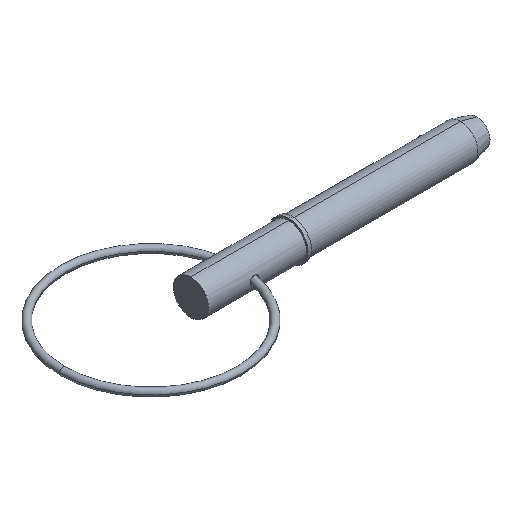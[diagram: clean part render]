
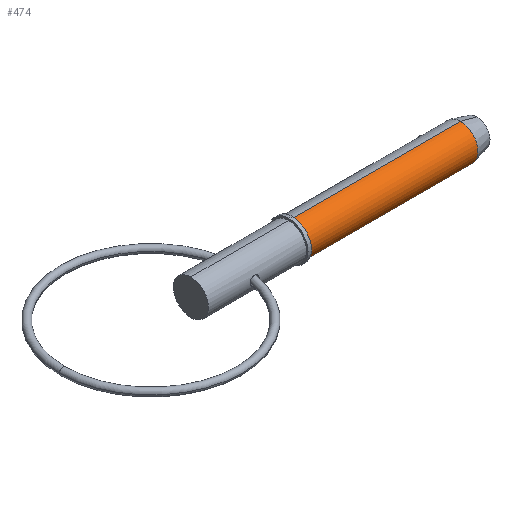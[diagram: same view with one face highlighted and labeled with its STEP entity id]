
A CAD part, isometric view. The second image highlights one B-rep face of the part: STEP entity #474.
In plain terms, the highlighted cylindrical face has radius 3.175 mm (diameter 6.35 mm), a partial arc.
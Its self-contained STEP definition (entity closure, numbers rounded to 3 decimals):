
#8 = AXIS2_PLACEMENT_3D ( 'NONE', #19, #864, #613 ) ;
#19 = CARTESIAN_POINT ( 'NONE',  ( 48.648, 0., 0. ) ) ;
#44 = ORIENTED_EDGE ( 'NONE', *, *, #697, .T. ) ;
#65 = CIRCLE ( 'NONE', #8, 3.175 ) ;
#85 = ORIENTED_EDGE ( 'NONE', *, *, #935, .F. ) ;
#119 = DIRECTION ( 'NONE',  ( 0., 0., -1. ) ) ;
#158 = CARTESIAN_POINT ( 'NONE',  ( 48.648, 0., -3.175 ) ) ;
#169 = ORIENTED_EDGE ( 'NONE', *, *, #746, .F. ) ;
#178 = AXIS2_PLACEMENT_3D ( 'NONE', #424, #739, #119 ) ;
#197 = DIRECTION ( 'NONE',  ( 1., 0., 0. ) ) ;
#271 = VECTOR ( 'NONE', #197, 1000. ) ;
#322 = CARTESIAN_POINT ( 'NONE',  ( 18.29, 0., -3.175 ) ) ;
#338 = DIRECTION ( 'NONE',  ( 1., 0., 0. ) ) ;
#406 = LINE ( 'NONE', #888, #591 ) ;
#412 = CYLINDRICAL_SURFACE ( 'NONE', #178, 3.175 ) ;
#420 = LINE ( 'NONE', #713, #271 ) ;
#424 = CARTESIAN_POINT ( 'NONE',  ( 0., 0., 0. ) ) ;
#435 = EDGE_CURVE ( 'NONE', #814, #800, #406, .T. ) ;
#474 = ADVANCED_FACE ( 'NONE', ( #797 ), #412, .T. ) ;
#551 = DIRECTION ( 'NONE',  ( 0., 0., -1. ) ) ;
#562 = VERTEX_POINT ( 'NONE', #883 ) ;
#591 = VECTOR ( 'NONE', #338, 1000. ) ;
#613 = DIRECTION ( 'NONE',  ( 0., 0., -1. ) ) ;
#650 = VERTEX_POINT ( 'NONE', #683 ) ;
#683 = CARTESIAN_POINT ( 'NONE',  ( 48.648, 0., 3.175 ) ) ;
#697 = EDGE_CURVE ( 'NONE', #562, #814, #916, .T. ) ;
#713 = CARTESIAN_POINT ( 'NONE',  ( 0., 0., 3.175 ) ) ;
#739 = DIRECTION ( 'NONE',  ( 1., 0., 0. ) ) ;
#746 = EDGE_CURVE ( 'NONE', #650, #800, #65, .T. ) ;
#797 = FACE_OUTER_BOUND ( 'NONE', #831, .T. ) ;
#800 = VERTEX_POINT ( 'NONE', #158 ) ;
#814 = VERTEX_POINT ( 'NONE', #322 ) ;
#831 = EDGE_LOOP ( 'NONE', ( #85, #44, #879, #169 ) ) ;
#852 = AXIS2_PLACEMENT_3D ( 'NONE', #919, #859, #551 ) ;
#859 = DIRECTION ( 'NONE',  ( 1., 0., 0. ) ) ;
#864 = DIRECTION ( 'NONE',  ( 1., 0., 0. ) ) ;
#879 = ORIENTED_EDGE ( 'NONE', *, *, #435, .T. ) ;
#883 = CARTESIAN_POINT ( 'NONE',  ( 18.29, 0., 3.175 ) ) ;
#888 = CARTESIAN_POINT ( 'NONE',  ( 0., 0., -3.175 ) ) ;
#916 = CIRCLE ( 'NONE', #852, 3.175 ) ;
#919 = CARTESIAN_POINT ( 'NONE',  ( 18.29, 0., 0. ) ) ;
#935 = EDGE_CURVE ( 'NONE', #562, #650, #420, .T. ) ;
